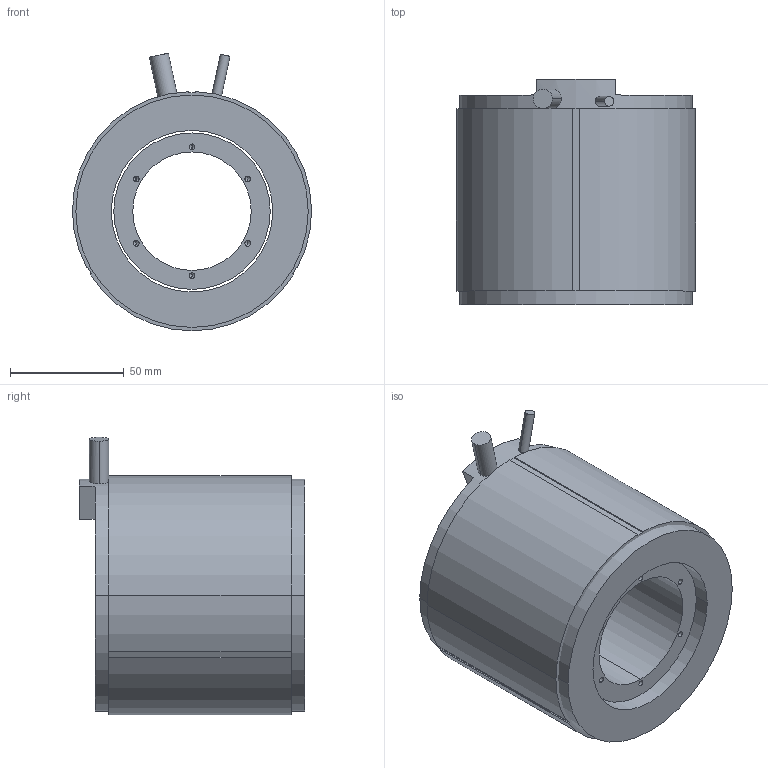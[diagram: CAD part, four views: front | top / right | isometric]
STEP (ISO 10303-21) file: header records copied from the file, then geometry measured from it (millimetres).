
FILE_DESCRIPTION (( 'STEP AP203' ), '1' );
FILE_NAME ('TMX105-90 3D.STEP', '2022-11-23T02:07:12', ( '' ), ( '' ), 'SwSTEP 2.0', 'SolidWorks 2021', '' );
FILE_SCHEMA (( 'CONFIG_CONTROL_DESIGN' ));
Length unit declared in the file: millimetre
Products named in the file (3): TM105-92 3D; TMX105-92 KIT 3D; TMX105-90 3D
Assembly tree (2 placements, depth 2):
  TMX105-90 3D
    TM105-92 3D
    TMX105-92 KIT 3D
Bounding box: 104.99 x 99 x 121.85 mm (x, y, z)
Volume: 615988.8 mm3; surface area: 150479.6 mm2
Topology: 3 solids, 3 shells, 94 faces, 237 edges, 138 vertices
Faces by surface type: cylinder 42, plane 28, cone 24
Entity records: 3084 total; most frequent: CARTESIAN_POINT 574, DIRECTION 491, ORIENTED_EDGE 426, EDGE_CURVE 213, AXIS2_PLACEMENT_3D 183, VERTEX_POINT 138, VECTOR 125, LINE 125
